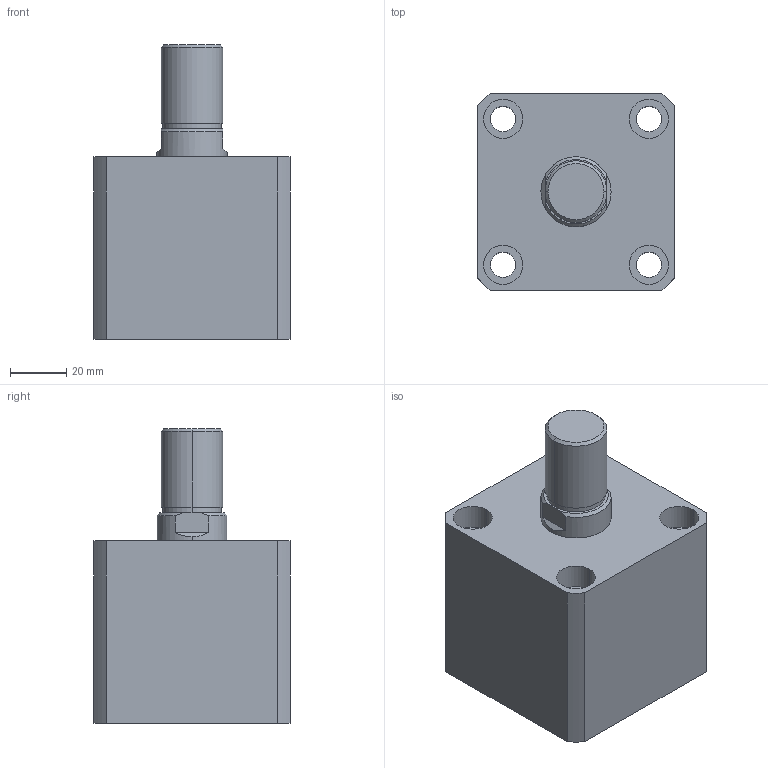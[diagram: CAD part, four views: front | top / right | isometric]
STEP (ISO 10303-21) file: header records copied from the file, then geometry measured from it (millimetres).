
FILE_DESCRIPTION (( 'STEP AP203' ), '1' );
FILE_NAME ('HTB-SDMB40-10W.STEP', '2019-10-09T01:44:46', ( '微软用户' ), ( '微软中国' ), 'SwSTEP 2.0', 'SolidWorks 2012', '' );
FILE_SCHEMA (( 'CONFIG_CONTROL_DESIGN' ));
Length unit declared in the file: millimetre
Products named in the file (3): HTB-SDMB40-10W; HTB-SDMB40-10W活塞杆; HTB-SDMB40-10掛极
Assembly tree (2 placements, depth 2):
  HTB-SDMB40-10W
    HTB-SDMB40-10掛极
    HTB-SDMB40-10W活塞杆
Bounding box: 70 x 70 x 105 mm (x, y, z)
Volume: 300730.8 mm3; surface area: 53332.9 mm2
Topology: 2 solids, 2 shells, 141 faces, 337 edges, 222 vertices
Faces by surface type: plane 67, cylinder 48, bspline 16, torus 6, cone 4
Entity records: 5180 total; most frequent: CARTESIAN_POINT 1597, ORIENTED_EDGE 674, DIRECTION 669, EDGE_CURVE 337, AXIS2_PLACEMENT_3D 242, VERTEX_POINT 222, VECTOR 185, LINE 185
